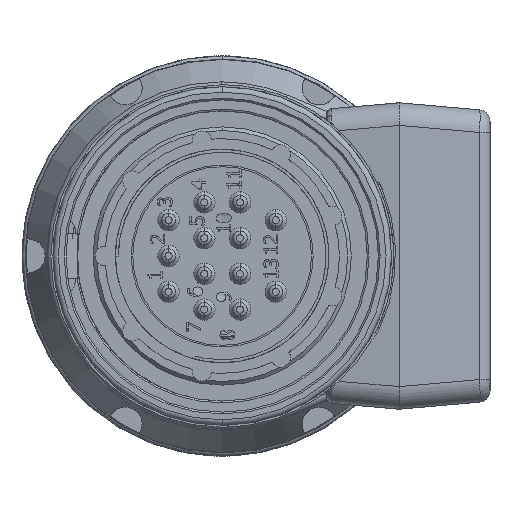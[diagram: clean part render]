
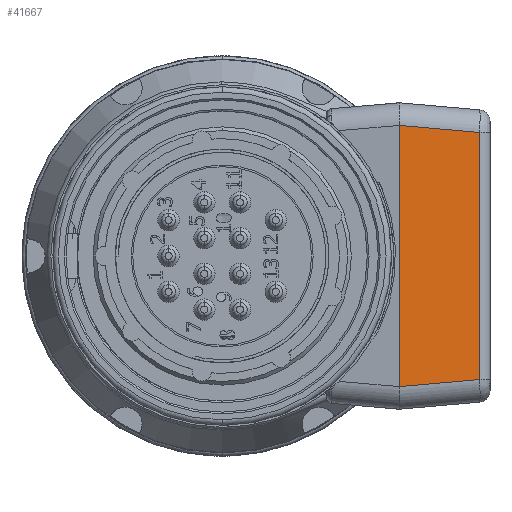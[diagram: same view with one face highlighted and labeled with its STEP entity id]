
A CAD part, left-side view. The second image highlights one B-rep face of the part: STEP entity #41667.
In plain terms, the highlighted planar face has unit normal (-0.996, -0.087, 0).
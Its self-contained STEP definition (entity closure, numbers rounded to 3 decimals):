
#3547 = CARTESIAN_POINT ( 'NONE',  ( 7.839, -24.765, 18.268 ) ) ;
#4310 = CARTESIAN_POINT ( 'NONE',  ( 7.839, -24.765, -20.32 ) ) ;
#4406 = LINE ( 'NONE', #4310, #53491 ) ;
#4596 = ORIENTED_EDGE ( 'NONE', *, *, #20069, .T. ) ;
#4688 = VECTOR ( 'NONE', #50175, 1000. ) ;
#9521 = VERTEX_POINT ( 'NONE', #3547 ) ;
#11859 = DIRECTION ( 'NONE',  ( 0., 0., 1. ) ) ;
#11913 = PLANE ( 'NONE',  #29004 ) ;
#13286 = VECTOR ( 'NONE', #11859, 1000. ) ;
#18658 = CARTESIAN_POINT ( 'NONE',  ( 9.233, -40.694, 16.875 ) ) ;
#19213 = CARTESIAN_POINT ( 'NONE',  ( 8.926, -37.192, -17.181 ) ) ;
#19894 = ORIENTED_EDGE ( 'NONE', *, *, #23997, .F. ) ;
#20069 = EDGE_CURVE ( 'NONE', #49090, #9521, #44760, .T. ) ;
#20529 = EDGE_LOOP ( 'NONE', ( #24436, #44041, #4596, #19894 ) ) ;
#20663 = VERTEX_POINT ( 'NONE', #35418 ) ;
#21219 = VERTEX_POINT ( 'NONE', #25984 ) ;
#23997 = EDGE_CURVE ( 'NONE', #20663, #9521, #4406, .T. ) ;
#24436 = ORIENTED_EDGE ( 'NONE', *, *, #31039, .T. ) ;
#25984 = CARTESIAN_POINT ( 'NONE',  ( 8.823, -36.016, -17.284 ) ) ;
#29004 = AXIS2_PLACEMENT_3D ( 'NONE', #42612, #38029, #46639 ) ;
#29378 = LINE ( 'NONE', #29941, #13286 ) ;
#29713 = FACE_OUTER_BOUND ( 'NONE', #20529, .T. ) ;
#29941 = CARTESIAN_POINT ( 'NONE',  ( 8.823, -36.016, -20.32 ) ) ;
#31039 = EDGE_CURVE ( 'NONE', #20663, #21219, #45869, .T. ) ;
#34468 = VECTOR ( 'NONE', #41298, 1000. ) ;
#35418 = CARTESIAN_POINT ( 'NONE',  ( 7.839, -24.765, -18.268 ) ) ;
#38029 = DIRECTION ( 'NONE',  ( -0.996, -0.087, 0. ) ) ;
#41298 = DIRECTION ( 'NONE',  ( -0.087, 0.992, 0.087 ) ) ;
#41667 = ADVANCED_FACE ( 'NONE', ( #29713 ), #11913, .T. ) ;
#42612 = CARTESIAN_POINT ( 'NONE',  ( 8.95, -37.465, -20.32 ) ) ;
#43348 = DIRECTION ( 'NONE',  ( 0., 0., 1. ) ) ;
#44041 = ORIENTED_EDGE ( 'NONE', *, *, #52907, .T. ) ;
#44760 = LINE ( 'NONE', #18658, #34468 ) ;
#45869 = LINE ( 'NONE', #19213, #4688 ) ;
#46639 = DIRECTION ( 'NONE',  ( -0.087, 0.996, 0. ) ) ;
#48766 = CARTESIAN_POINT ( 'NONE',  ( 8.823, -36.016, 17.284 ) ) ;
#49090 = VERTEX_POINT ( 'NONE', #48766 ) ;
#50175 = DIRECTION ( 'NONE',  ( 0.087, -0.992, 0.087 ) ) ;
#52907 = EDGE_CURVE ( 'NONE', #21219, #49090, #29378, .T. ) ;
#53491 = VECTOR ( 'NONE', #43348, 1000. ) ;
